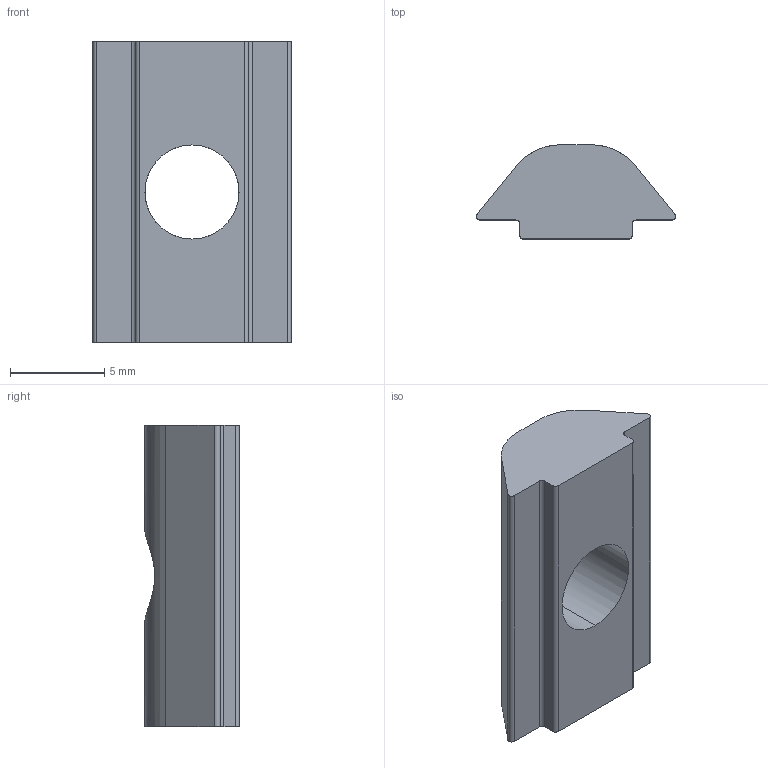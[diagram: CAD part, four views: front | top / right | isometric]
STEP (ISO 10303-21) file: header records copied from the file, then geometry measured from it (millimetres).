
FILE_DESCRIPTION (( 'STEP AP214' ), '1' );
FILE_NAME ('F45AN M6.step', '2017-04-05T07:36:27', ( '' ), ( '' ), 'SwSTEP 2.0', 'SolidWorks 2015', '' );
FILE_SCHEMA (( 'AUTOMOTIVE_DESIGN' ));
Length unit declared in the file: millimetre
Products named in the file (1): F45AN M6
Bounding box: 10.56 x 5 x 16 mm (x, y, z)
Volume: 484.8 mm3; surface area: 529.2 mm2
Topology: 1 solids, 1 shells, 22 faces, 63 edges, 42 vertices
Faces by surface type: cylinder 11, plane 11
Entity records: 821 total; most frequent: CARTESIAN_POINT 162, DIRECTION 131, ORIENTED_EDGE 126, EDGE_CURVE 63, AXIS2_PLACEMENT_3D 47, VERTEX_POINT 42, LINE 37, VECTOR 37
